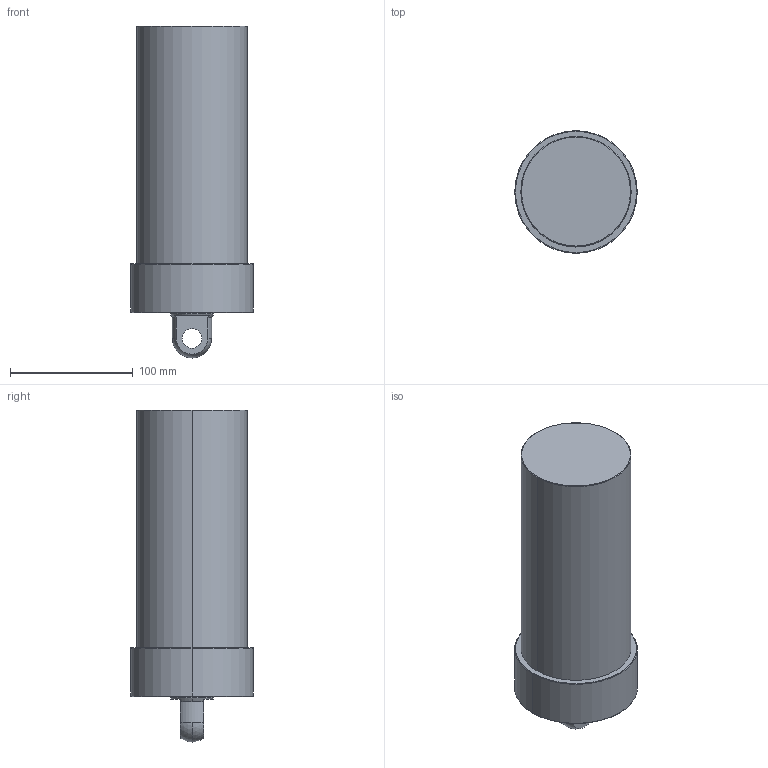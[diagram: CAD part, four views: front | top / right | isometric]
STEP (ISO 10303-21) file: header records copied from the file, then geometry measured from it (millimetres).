
FILE_DESCRIPTION (( 'STEP AP203' ), '1' );
FILE_NAME ('CLLU-090GP-150.STEP', '2020-01-15T01:51:18', ( '' ), ( '' ), 'SwSTEP 2.0', 'SolidWorks 2015', '' );
FILE_SCHEMA (( 'CONFIG_CONTROL_DESIGN' ));
Length unit declared in the file: millimetre
Products named in the file (1): CLLU-090GP-150
Bounding box: 100 x 100 x 271 mm (x, y, z)
Volume: 1557336.8 mm3; surface area: 89307.5 mm2
Topology: 1 solids, 1 shells, 58 faces, 131 edges, 75 vertices
Faces by surface type: cylinder 23, cone 18, plane 9, torus 6, sphere 2
Entity records: 1658 total; most frequent: DIRECTION 311, CARTESIAN_POINT 269, ORIENTED_EDGE 246, AXIS2_PLACEMENT_3D 133, EDGE_CURVE 123, VERTEX_POINT 75, CIRCLE 74, EDGE_LOOP 68
